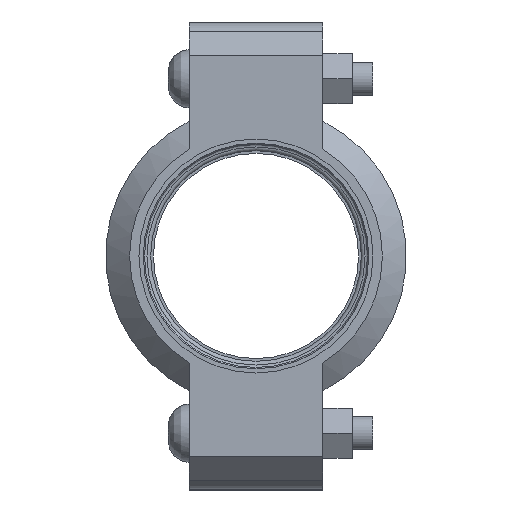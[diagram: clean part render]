
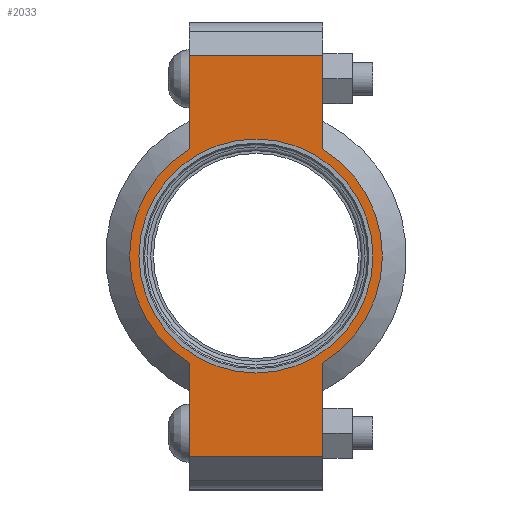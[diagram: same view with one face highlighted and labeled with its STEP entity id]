
A CAD part, left-side view. The second image highlights one B-rep face of the part: STEP entity #2033.
In plain terms, the highlighted planar face has unit normal (-1, 0, 0) as drawn and (0, 0, 1) by its records, which use the part's own axes.
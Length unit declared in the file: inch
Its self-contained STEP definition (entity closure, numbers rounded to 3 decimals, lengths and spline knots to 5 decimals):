
#166=LINE('',#3626,#265);
#174=LINE('',#3662,#273);
#181=LINE('',#3683,#280);
#190=LINE('',#3715,#289);
#191=LINE('',#3719,#290);
#192=LINE('',#3721,#291);
#265=VECTOR('',#2972,0.3937);
#273=VECTOR('',#2988,0.3937);
#280=VECTOR('',#3007,0.3937);
#289=VECTOR('',#3032,0.3937);
#290=VECTOR('',#3037,0.3937);
#291=VECTOR('',#3038,0.3937);
#351=FACE_BOUND('',#621,.T.);
#397=PLANE('',#2398);
#493=FACE_OUTER_BOUND('',#620,.T.);
#620=EDGE_LOOP('',(#1762,#1763,#1764,#1765,#1766,#1767,#1768,#1769));
#621=EDGE_LOOP('',(#1770));
#768=CIRCLE('',#2340,1.75);
#794=CIRCLE('',#2399,1.89);
#795=CIRCLE('',#2400,1.89);
#919=VERTEX_POINT('',#3442);
#962=VERTEX_POINT('',#3623);
#963=VERTEX_POINT('',#3625);
#974=VERTEX_POINT('',#3657);
#975=VERTEX_POINT('',#3661);
#982=VERTEX_POINT('',#3680);
#983=VERTEX_POINT('',#3682);
#993=VERTEX_POINT('',#3718);
#994=VERTEX_POINT('',#3720);
#1156=EDGE_CURVE('',#919,#919,#768,.T.);
#1217=EDGE_CURVE('',#963,#962,#166,.T.);
#1231=EDGE_CURVE('',#975,#974,#174,.T.);
#1241=EDGE_CURVE('',#983,#982,#181,.T.);
#1256=EDGE_CURVE('',#975,#962,#190,.T.);
#1257=EDGE_CURVE('',#974,#983,#794,.T.);
#1258=EDGE_CURVE('',#993,#982,#191,.T.);
#1259=EDGE_CURVE('',#993,#994,#192,.T.);
#1260=EDGE_CURVE('',#994,#963,#795,.T.);
#1762=ORIENTED_EDGE('',*,*,#1256,.F.);
#1763=ORIENTED_EDGE('',*,*,#1231,.T.);
#1764=ORIENTED_EDGE('',*,*,#1257,.T.);
#1765=ORIENTED_EDGE('',*,*,#1241,.T.);
#1766=ORIENTED_EDGE('',*,*,#1258,.F.);
#1767=ORIENTED_EDGE('',*,*,#1259,.T.);
#1768=ORIENTED_EDGE('',*,*,#1260,.T.);
#1769=ORIENTED_EDGE('',*,*,#1217,.T.);
#1770=ORIENTED_EDGE('',*,*,#1156,.T.);
#2033=ADVANCED_FACE('',(#493,#351),#397,.T.);
#2340=AXIS2_PLACEMENT_3D('',#3444,#2848,#2849);
#2398=AXIS2_PLACEMENT_3D('',#3716,#3033,#3034);
#2399=AXIS2_PLACEMENT_3D('',#3717,#3035,#3036);
#2400=AXIS2_PLACEMENT_3D('',#3722,#3039,#3040);
#2848=DIRECTION('center_axis',(0.,0.,-1.));
#2849=DIRECTION('ref_axis',(1.,0.,0.));
#2972=DIRECTION('',(1.,0.,0.));
#2988=DIRECTION('',(-1.,0.,0.));
#3007=DIRECTION('',(-1.,0.,0.));
#3032=DIRECTION('',(0.,-1.,0.));
#3033=DIRECTION('center_axis',(0.,0.,1.));
#3034=DIRECTION('ref_axis',(-1.,0.,0.));
#3035=DIRECTION('center_axis',(0.,0.,1.));
#3036=DIRECTION('ref_axis',(1.,0.,0.));
#3037=DIRECTION('',(0.,1.,0.));
#3038=DIRECTION('',(1.,0.,0.));
#3039=DIRECTION('center_axis',(0.,0.,1.));
#3040=DIRECTION('ref_axis',(1.,0.,0.));
#3442=CARTESIAN_POINT('',(-1.75,0.,0.94));
#3444=CARTESIAN_POINT('Origin',(0.,0.,0.94));
#3623=CARTESIAN_POINT('',(3.,-1.,0.94));
#3625=CARTESIAN_POINT('',(1.60378,-1.,0.94));
#3626=CARTESIAN_POINT('',(3.5,-1.,0.94));
#3657=CARTESIAN_POINT('',(1.60378,1.,0.94));
#3661=CARTESIAN_POINT('',(3.,1.,0.94));
#3662=CARTESIAN_POINT('',(-3.5,1.,0.94));
#3680=CARTESIAN_POINT('',(-3.,1.,0.94));
#3682=CARTESIAN_POINT('',(-1.60378,1.,0.94));
#3683=CARTESIAN_POINT('',(-3.5,1.,0.94));
#3715=CARTESIAN_POINT('',(3.,-0.5,0.94));
#3716=CARTESIAN_POINT('Origin',(0.,0.,
0.94));
#3717=CARTESIAN_POINT('Origin',(0.,0.,0.94));
#3718=CARTESIAN_POINT('',(-3.,-1.,0.94));
#3719=CARTESIAN_POINT('',(-3.,0.5,0.94));
#3720=CARTESIAN_POINT('',(-1.60378,-1.,0.94));
#3721=CARTESIAN_POINT('',(3.5,-1.,0.94));
#3722=CARTESIAN_POINT('Origin',(0.,0.,0.94));
